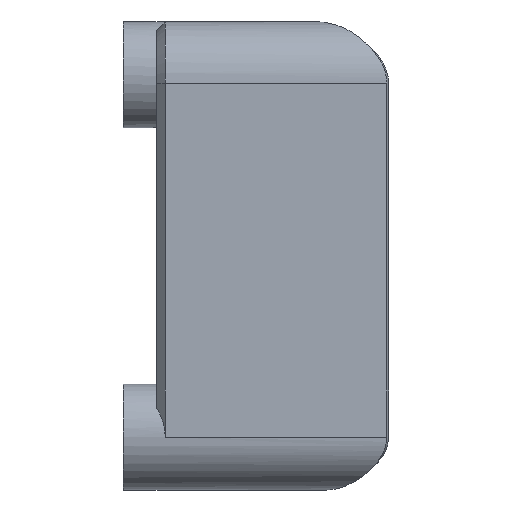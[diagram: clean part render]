
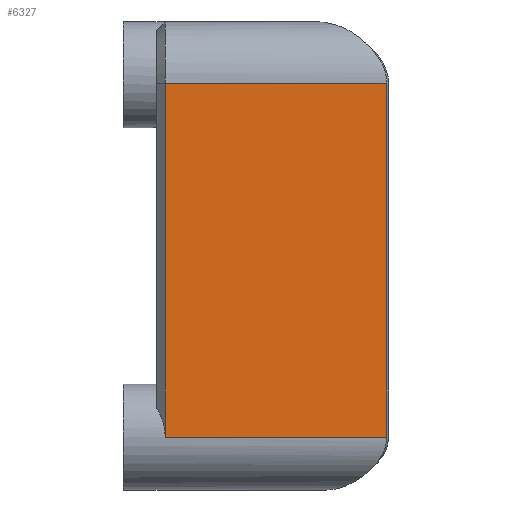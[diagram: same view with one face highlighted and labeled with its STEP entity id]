
A CAD part, left-side view. The second image highlights one B-rep face of the part: STEP entity #6327.
In plain terms, the highlighted planar face has unit normal (-1, 0, 0).
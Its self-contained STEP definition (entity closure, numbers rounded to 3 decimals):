
#286=PLANE('',#6872);
#615=FACE_OUTER_BOUND('',#979,.T.);
#979=EDGE_LOOP('',(#5819,#5820,#5821,#5822));
#1659=LINE('',#10606,#2335);
#1664=LINE('',#10741,#2340);
#1666=LINE('',#10748,#2342);
#1667=LINE('',#10749,#2343);
#2335=VECTOR('',#8582,10.);
#2340=VECTOR('',#8603,10.);
#2342=VECTOR('',#8611,10.);
#2343=VECTOR('',#8612,10.);
#3154=VERTEX_POINT('',#10581);
#3158=VERTEX_POINT('',#10604);
#3166=VERTEX_POINT('',#10740);
#3168=VERTEX_POINT('',#10747);
#4045=EDGE_CURVE('',#3158,#3154,#1659,.T.);
#4061=EDGE_CURVE('',#3166,#3154,#1664,.T.);
#4065=EDGE_CURVE('',#3168,#3158,#1666,.T.);
#4066=EDGE_CURVE('',#3166,#3168,#1667,.T.);
#5819=ORIENTED_EDGE('',*,*,#4045,.F.);
#5820=ORIENTED_EDGE('',*,*,#4065,.F.);
#5821=ORIENTED_EDGE('',*,*,#4066,.F.);
#5822=ORIENTED_EDGE('',*,*,#4061,.T.);
#6327=ADVANCED_FACE('',(#615),#286,.T.);
#6872=AXIS2_PLACEMENT_3D('',#10746,#8609,#8610);
#8582=DIRECTION('',(0.,0.,-1.));
#8603=DIRECTION('',(0.,-1.,0.));
#8609=DIRECTION('center_axis',(-1.,0.,0.));
#8610=DIRECTION('ref_axis',(0.,0.,-1.));
#8611=DIRECTION('',(0.,-1.,0.));
#8612=DIRECTION('',(0.,0.,1.));
#10581=CARTESIAN_POINT('',(-30.23,-20.66,-17.357));
#10604=CARTESIAN_POINT('',(-30.23,-20.66,14.43));
#10606=CARTESIAN_POINT('',(-30.23,-20.66,19.93));
#10740=CARTESIAN_POINT('',(-30.23,-0.75,-17.357));
#10741=CARTESIAN_POINT('',(-30.23,0.,-17.357));
#10746=CARTESIAN_POINT('Origin',(-30.23,0.,19.93));
#10747=CARTESIAN_POINT('',(-30.23,-0.75,14.43));
#10748=CARTESIAN_POINT('',(-30.23,0.,14.43));
#10749=CARTESIAN_POINT('',(-30.23,-0.75,9.421));
